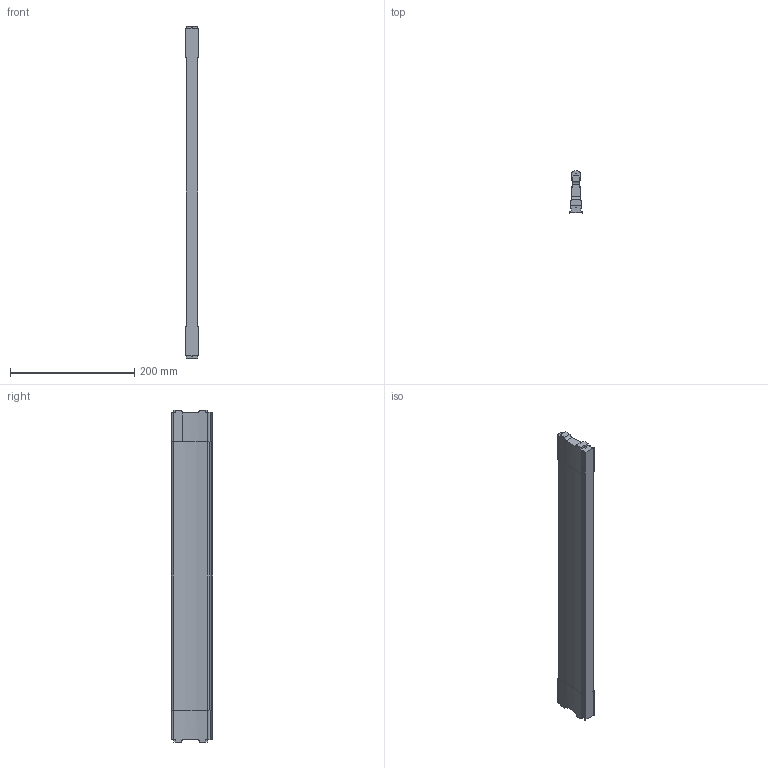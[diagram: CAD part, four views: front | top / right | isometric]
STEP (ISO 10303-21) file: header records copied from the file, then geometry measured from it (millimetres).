
FILE_DESCRIPTION (( 'STEP AP214' ), '1' );
FILE_NAME ('Traverse NOVAPro NL550 Mass X525,4.step', '2010-09-21T13:17:00', ( 'grass' ), ( '' ), 'SwSTEP 2.0', 'SolidWorks 2010', '' );
FILE_SCHEMA (( 'AUTOMOTIVE_DESIGN' ));
Length unit declared in the file: millimetre
Products named in the file (1): Traverse NOVAPro NL550 Mass X525,4
Bounding box: 21.4 x 67.5 x 534.4 mm (x, y, z)
Volume: 445242.4 mm3; surface area: 93036.8 mm2
Topology: 1 solids, 1 shells, 125 faces, 369 edges, 246 vertices
Faces by surface type: cylinder 68, plane 57
Entity records: 4377 total; most frequent: CARTESIAN_POINT 879, DIRECTION 753, ORIENTED_EDGE 738, EDGE_CURVE 369, AXIS2_PLACEMENT_3D 268, VERTEX_POINT 246, LINE 217, VECTOR 217
